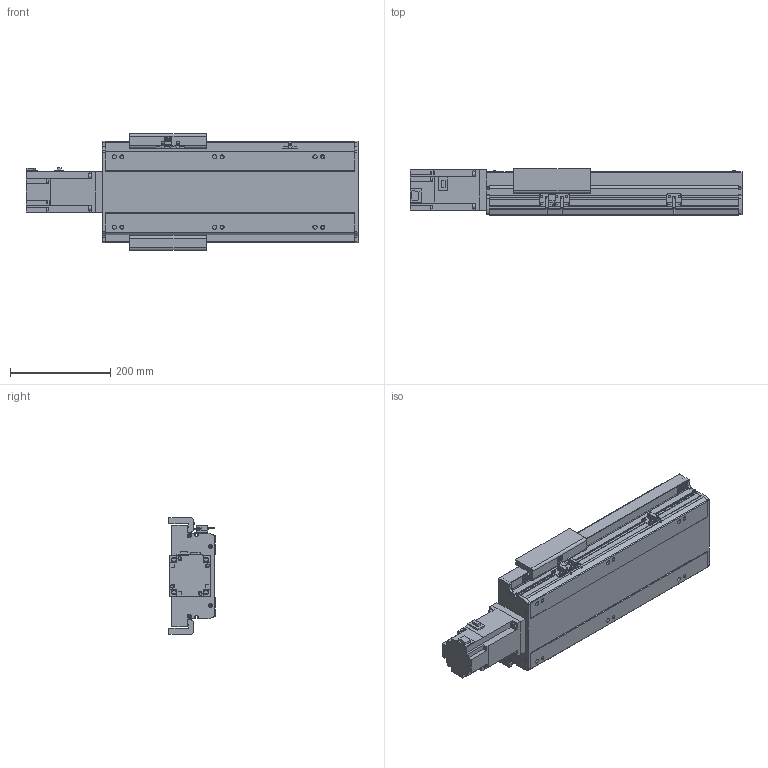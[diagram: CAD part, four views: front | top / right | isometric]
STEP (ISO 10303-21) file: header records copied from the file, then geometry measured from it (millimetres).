
FILE_DESCRIPTION(/* description */ ('STEP AP214'),/* implementation_level */ '2;1');
FILE_NAME(/* name */ 'PSM170-L10-S250-BC-T75-C1-N(0)',/* time_stamp */ '2022-06-13T03:23:50+02:00',/* author */ ('License CC BY-ND 4.0'),/* organization */ ('CADENAS'),/* preprocessor_version */ 'ST-DEVELOPER v18.102',/* originating_system */ 'PARTsolutions',/* authorisation */ ' ');
FILE_SCHEMA (('AUTOMOTIVE_DESIGN {1 0 10303 214 3 1 1}'));
Length unit declared in the file: millimetre
Products named in the file (8): PSM170-L10-S250-BC-T75-C1-N(0); PSM-Sensor; PSM140-S250-492.5; T75-p1; PSM170_body2; PSM170_body3; PSM170-S250_body1; PSM170-L10-S250-BC-T75-C1-N(0)_dummy
Assembly tree (11 placements, depth 2):
  PSM170-L10-S250-BC-T75-C1-N(0)
    PSM-Sensor  x3
    PSM140-S250-492.5  x3
    T75-p1
    PSM170_body2
    PSM170_body3
    PSM170-S250_body1
    PSM170-L10-S250-BC-T75-C1-N(0)_dummy
Bounding box: 661.3 x 92 x 233 mm (x, y, z)
Volume: 4288782.2 mm3; surface area: 801775.1 mm2
Topology: 10 solids, 10 shells, 975 faces, 2591 edges, 1688 vertices
Faces by surface type: plane 636, cylinder 273, cone 52, torus 14
Full cylindrical faces by diameter (mm): 2.8 x3, 3.08 x1, 4.134 x4, 4.5 x12, 4.6 x3, 5.7 x2, 6 x9, 6.647 x14, 7 x8, 7.6 x4, 8 x8, 8.5 x6, 10 x4, 14 x6, 45 x1, 70 x1
Entity records: 25309 total; most frequent: CARTESIAN_POINT 4518, DIRECTION 4270, ORIENTED_EDGE 4076, EDGE_CURVE 2038, LINE 1424, VECTOR 1424, AXIS2_PLACEMENT_3D 1423, VERTEX_POINT 1418
